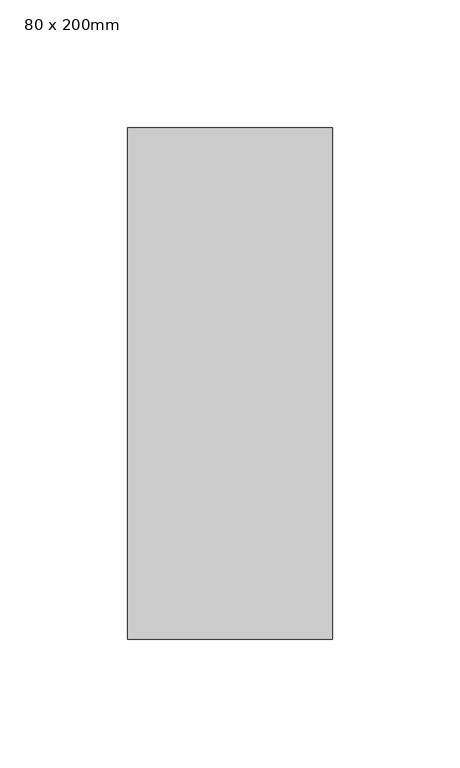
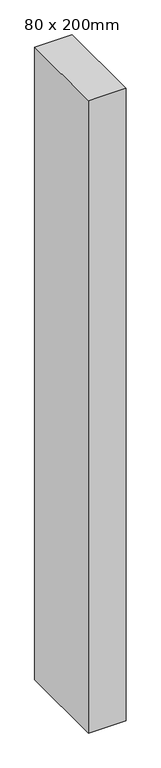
"""IFC4 building model written with IfcOpenShell, lengths in millimetres: member geometry, 矩形竖梃 : 80 x 200mm."""

import ifcopenshell
import ifcopenshell.guid

model = None  # the IFC model being written
_history = None  # IfcOwnerHistory: only IFC2X3 demands one
_inside = {}  # id of a spatial element -> (the spatial element, [elements in it])
_under = {}  # id of a project, library or spatial element -> (it, [spatial elements below it])
_declared = {}  # id of a project -> (the project, [libraries it declares])
_typed = {}  # id of a type object -> (the type object, [elements of that type])
_made_of = {}  # id of a material, layer set ... -> (it, [elements and type objects made of it])


def new_model(schema):
    """Start an empty IFC model of exactly this schema.

    Asked for "IFC4X3", IfcOpenShell would pick the latest addendum, in which some entities
    have other attributes; the version numbers below select the first issue.
    IFC2X3 requires an IfcOwnerHistory on every rooted entity: one is made here for all.
    """
    global model, _history
    if schema == "IFC4X3":
        model = ifcopenshell.file(schema_version=(4, 3, 0, 0))
    else:
        model = ifcopenshell.file(schema=schema)
    _inside.clear()
    _under.clear()
    _declared.clear()
    _typed.clear()
    _made_of.clear()
    _history = None
    if model.schema == "IFC2X3":
        org = make("IfcOrganization", Name="unknown")
        user = make(
            "IfcPersonAndOrganization",
            ThePerson=make("IfcPerson", FamilyName="unknown"),
            TheOrganization=org,
        )
        app = make(
            "IfcApplication",
            ApplicationDeveloper=org,
            Version="unknown",
            ApplicationFullName="unknown",
            ApplicationIdentifier="unknown",
        )
        _history = make(
            "IfcOwnerHistory",
            OwningUser=user,
            OwningApplication=app,
            ChangeAction="ADDED",
            CreationDate=0,
        )
    return model


def make(cls, **values):
    """One entity of the class cls with the attributes given. An attribute that is None is left unset."""
    return model.create_entity(
        cls, **{name: value for name, value in values.items() if value is not None}
    )


def rooted(cls, **values):
    """An entity with a GlobalId (a new one), such as an element, a storey or a relation."""
    return make(cls, GlobalId=ifcopenshell.guid.new(), OwnerHistory=_history, **values)


def si_unit(unit_type, name, prefix=None):
    """IfcSIUnit, for example si_unit("LENGTHUNIT", "METRE", prefix="MILLI")."""
    return make("IfcSIUnit", UnitType=unit_type, Prefix=prefix, Name=name)


def assignment(units):
    """IfcUnitAssignment: the units of a project."""
    return None if units is None else make("IfcUnitAssignment", Units=units)


def point(xyz):
    """IfcCartesianPoint."""
    return None if xyz is None else make("IfcCartesianPoint", Coordinates=xyz)


def direction(xyz):
    """IfcDirection."""
    return None if xyz is None else make("IfcDirection", DirectionRatios=xyz)


def frame(location, z_axis=None, x_axis=None):
    """IfcAxis2Placement3D, a coordinate frame: its origin and axes. An axis left out is left unset."""
    return make(
        "IfcAxis2Placement3D",
        Location=point(location),
        Axis=direction(z_axis),
        RefDirection=direction(x_axis),
    )


def origin():
    """The frame at (0, 0, 0) with its axes left unset."""
    return frame((0.0, 0.0, 0.0))


def place(relative_to, where):
    """IfcLocalPlacement: puts the frame where relative to a parent placement (None: the world)."""
    return make(
        "IfcLocalPlacement", PlacementRelTo=relative_to, RelativePlacement=where
    )


def context(
    kind, dimensions, precision=None, world=None, true_north=None, identifier=None
):
    """IfcGeometricRepresentationContext, for example the 3D "Model" context."""
    return make(
        "IfcGeometricRepresentationContext",
        ContextIdentifier=identifier,
        ContextType=kind,
        CoordinateSpaceDimension=dimensions,
        Precision=precision,
        WorldCoordinateSystem=world,
        TrueNorth=true_north,
    )


def project(units=None, contexts=None):
    """IfcProject with its units and contexts."""
    return rooted(
        "IfcProject",
        Name="project",
        RepresentationContexts=contexts,
        UnitsInContext=assignment(units),
    )


def spatial(cls, under=None, at=None, **own):
    """A site, building, storey or space (cls), placed at a placement, below another one or the project."""
    s = rooted(cls, ObjectPlacement=at, **own)
    if under is not None:
        _under.setdefault(under.id(), (under, []))[1].append(s)
    return s


def polyline(points):
    """IfcPolyline through the points."""
    return make("IfcPolyline", Points=[point(p) for p in points])


def outline(outer, holes=None, kind="AREA"):
    """IfcArbitraryClosedProfileDef: a profile drawn as a closed curve; with holes, ...WithVoids."""
    if holes is None:
        return make("IfcArbitraryClosedProfileDef", ProfileType=kind, OuterCurve=outer)
    return make(
        "IfcArbitraryProfileDefWithVoids",
        ProfileType=kind,
        OuterCurve=outer,
        InnerCurves=holes,
    )


def extrude(swept, where, along, depth):
    """IfcExtrudedAreaSolid: the profile swept, set in the frame where, extruded along a direction by depth."""
    return make(
        "IfcExtrudedAreaSolid",
        SweptArea=swept,
        Position=where,
        ExtrudedDirection=direction(along),
        Depth=depth,
    )


def shape(context_of_items, identifier, shape_type, items):
    """IfcShapeRepresentation: the items that make up one representation, for example the "Body"."""
    return make(
        "IfcShapeRepresentation",
        ContextOfItems=context_of_items,
        RepresentationIdentifier=identifier,
        RepresentationType=shape_type,
        Items=items,
    )


def source(mapping_origin, context_of_items, identifier, shape_type, items):
    """IfcRepresentationMap: a shape defined once, which mapped items show again and again."""
    return make(
        "IfcRepresentationMap",
        MappingOrigin=mapping_origin,
        MappedRepresentation=shape(context_of_items, identifier, shape_type, items),
    )


def transform(
    local_origin,
    x_axis=None,
    y_axis=None,
    z_axis=None,
    scale=None,
    scale2=None,
    scale3=None,
    uniform=True,
):
    """IfcCartesianTransformationOperator3D, or its non-uniform kind. x_axis, y_axis, z_axis: its Axis1, 2, 3."""
    if uniform:
        return make(
            "IfcCartesianTransformationOperator3D",
            Axis1=direction(x_axis),
            Axis2=direction(y_axis),
            LocalOrigin=point(local_origin),
            Scale=scale,
            Axis3=direction(z_axis),
        )
    return make(
        "IfcCartesianTransformationOperator3DnonUniform",
        Axis1=direction(x_axis),
        Axis2=direction(y_axis),
        LocalOrigin=point(local_origin),
        Scale=scale,
        Axis3=direction(z_axis),
        Scale2=scale2,
        Scale3=scale3,
    )


def mapped(mapping_source, mapping_target):
    """IfcMappedItem: shows the shape of a source again, moved by a transform."""
    return make(
        "IfcMappedItem", MappingSource=mapping_source, MappingTarget=mapping_target
    )


def made_of(thing, what):
    """Note that an element or type object is made of a material, layer set ...; save() writes the relation."""
    if what is not None:
        _made_of.setdefault(what.id(), (what, []))[1].append(thing)
    return thing


def element(
    cls,
    number,
    at=None,
    inside=None,
    cuts=None,
    type_object=None,
    material=None,
    context=None,
    identifier="Body",
    shape_type=None,
    held_by="IfcProductDefinitionShape",
    body=None,
    shapes=None,
    **own,
):
    """One element of the class cls, such as IfcWall. Its Tag is "e" and its number.

    at: its placement. inside: the storey or other place that contains it. cuts: it is an
    opening in that element (IfcRelVoidsElement). A single representation is given by context,
    identifier, shape_type and body (its items); several are given by shapes. held_by: the class
    of the entity that holds the representations. save() writes the other relations.
    """
    e = rooted(cls, Tag="e%d" % number, ObjectPlacement=at, **own)
    if body is not None:
        shapes = [shape(context, identifier, shape_type, body)]
    if shapes is not None:
        e.Representation = make(held_by, Representations=shapes)
    if inside is not None:
        _inside.setdefault(inside.id(), (inside, []))[1].append(e)
    if cuts is not None:
        rooted(
            "IfcRelVoidsElement", RelatingBuildingElement=cuts, RelatedOpeningElement=e
        )
    if type_object is not None:
        _typed.setdefault(type_object.id(), (type_object, []))[1].append(e)
    return made_of(e, material)


def aggregate(whole, parts):
    """IfcRelAggregates: a whole, such as a stair, and the parts it consists of."""
    return rooted("IfcRelAggregates", RelatingObject=whole, RelatedObjects=parts)


def save(model, path):
    """Write the relations noted so far, then the file.

    IfcRelAggregates (storeys below a building ...), IfcRelContainedInSpatialStructure (elements
    in a storey), IfcRelDefinesByType, IfcRelAssociatesMaterial and IfcRelDeclares: one each for
    every whole, place, type object, material and project.
    """
    for whole, parts in _under.values():
        aggregate(whole, parts)
    for where, things in _inside.values():
        rooted(
            "IfcRelContainedInSpatialStructure",
            RelatedElements=things,
            RelatingStructure=where,
        )
    for kind, things in _typed.values():
        rooted("IfcRelDefinesByType", RelatedObjects=things, RelatingType=kind)
    for what, things in _made_of.values():
        rooted("IfcRelAssociatesMaterial", RelatedObjects=things, RelatingMaterial=what)
    for by, libraries in _declared.values():
        rooted("IfcRelDeclares", RelatingContext=by, RelatedDefinitions=libraries)
    model.write(path)


def member_80_x_200mm_a37b7d74(model_context):
    return source(origin(), model_context, "Body", "SweptSolid", [
        extrude(outline(polyline([(0.0, 100.0), (0.0, -100.0), (-80.0, -100.0), (-80.0, 100.0), (0.0, 100.0)])), frame((0.0, 0.0, -1431.5857549), z_axis=(0.0, 0.0, 1.0), x_axis=(1.0, 0.0, 0.0)), (0.0, 0.0, 1.0), 1431.5857549),
    ])


if __name__ == "__main__":
    model = new_model("IFC4")
    model_context = context("Model", 3, world=origin())
    ifc_project = project(units=[si_unit("LENGTHUNIT", "METRE", prefix="MILLI")], contexts=[model_context])
    site = spatial("IfcSite", under=ifc_project)
    building = spatial("IfcBuilding", under=site)
    placement = place(None, origin())
    member_80_x_200mm_shape = member_80_x_200mm_a37b7d74(model_context)
    element("IfcMember", 1, ObjectType="矩形竖梃 : 80 x 200mm", at=placement, inside=building, context=model_context, shape_type="MappedRepresentation", body=[
        mapped(member_80_x_200mm_shape, transform((0.0, 0.0, 0.0), x_axis=(1.0, 0.0, 0.0), y_axis=(0.0, 1.0, 0.0), z_axis=(0.0, 0.0, 1.0))),
    ])
    save(model, "model.ifc")
